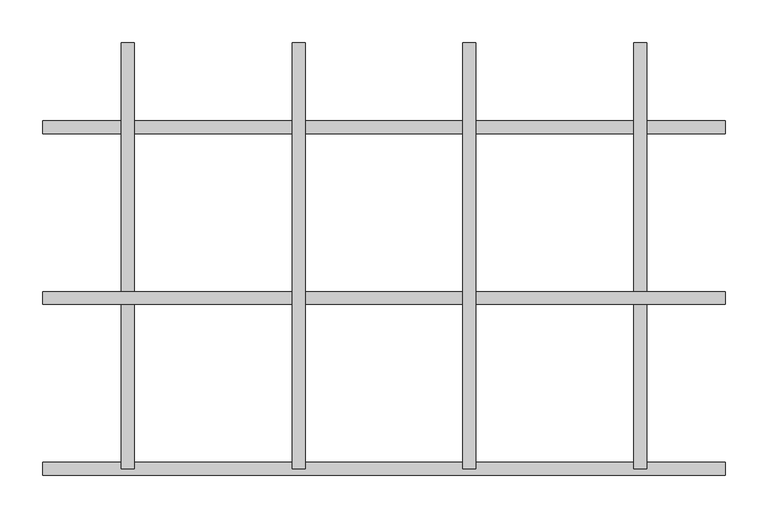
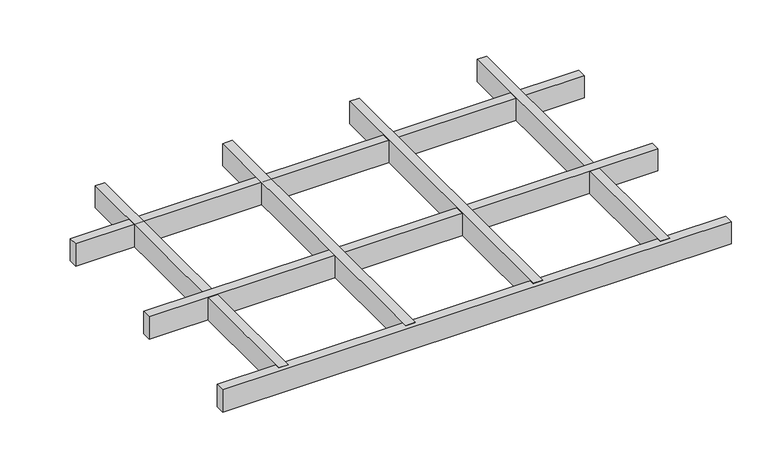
"""IFC4 building model written with IfcOpenShell, lengths in millimetres: proxy geometry, durlum_GEO_panel : durlum_GEO_15_corner_cut."""

from ifc_helpers import new_model, si_unit, origin, origin_with_axes, place, context, project, spatial, polyline, outline, extrude, source, transform, mapped, element, save


def generic_models_0913f8e8(model_context):
    return source(origin(), model_context, "Body", "SweptSolid", [
        extrude(outline(polyline([(92.5, 249.5), (107.5, 249.5), (107.5, -249.5), (92.5, -249.5), (92.5, 249.5)])), origin_with_axes(), (0.0, 0.0, 1.0), 37.0),
        extrude(outline(polyline([(-107.5, 249.5), (-92.5, 249.5), (-92.5, -249.5), (-107.5, -249.5), (-107.5, 249.5)])), origin_with_axes(), (0.0, 0.0, 1.0), 37.0),
        extrude(outline(polyline([(399.75, -42.0), (399.75, -57.0), (-399.75, -57.0), (-399.75, -42.0), (399.75, -42.0)])), origin_with_axes(), (0.0, 0.0, 1.0), 37.0),
        extrude(outline(polyline([(292.5, 249.5), (307.5, 249.5), (307.5, -249.5), (292.5, -249.5), (292.5, 249.5)])), origin_with_axes(), (0.0, 0.0, 1.0), 37.0),
        extrude(outline(polyline([(-307.5, 249.5), (-292.5, 249.5), (-292.5, -249.5), (-307.5, -249.5), (-307.5, 249.5)])), origin_with_axes(), (0.0, 0.0, 1.0), 37.0),
        extrude(outline(polyline([(399.75, -242.0), (399.75, -257.0), (-399.75, -257.0), (-399.75, -242.0), (399.75, -242.0)])), origin_with_axes(), (0.0, 0.0, 1.0), 37.0),
        extrude(outline(polyline([(399.75, 158.0), (399.75, 143.0), (-399.75, 143.0), (-399.75, 158.0), (399.75, 158.0)])), origin_with_axes(), (0.0, 0.0, 1.0), 37.0),
    ])


if __name__ == "__main__":
    model = new_model("IFC4")
    model_context = context("Model", 3, world=origin())
    ifc_project = project(units=[si_unit("LENGTHUNIT", "METRE", prefix="MILLI")], contexts=[model_context])
    site = spatial("IfcSite", under=ifc_project)
    building = spatial("IfcBuilding", under=site)
    placement = place(None, origin())
    generic_models_shape = generic_models_0913f8e8(model_context)
    element("IfcBuildingElementProxy", 1, Name="durlum_GEO_panel : durlum_GEO_15_corner_cut", ObjectType="durlum_GEO_panel : durlum_GEO_15_corner_cut", at=placement, inside=building, context=model_context, shape_type="MappedRepresentation", body=[
        mapped(generic_models_shape, transform((0.0, 0.0, 0.0), x_axis=(1.0, 0.0, 0.0), y_axis=(0.0, 1.0, 0.0), z_axis=(0.0, 0.0, 1.0))),
    ])
    save(model, "model.ifc")
